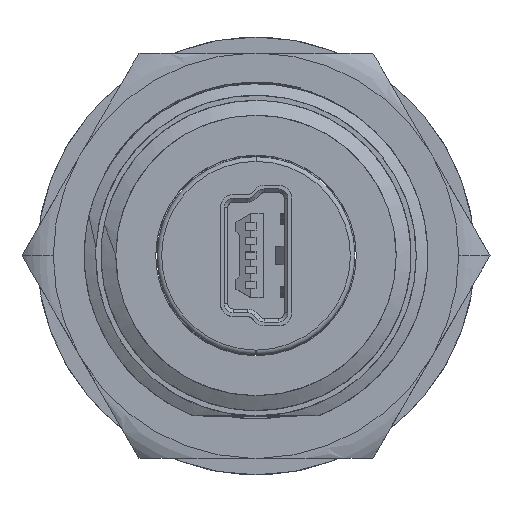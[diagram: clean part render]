
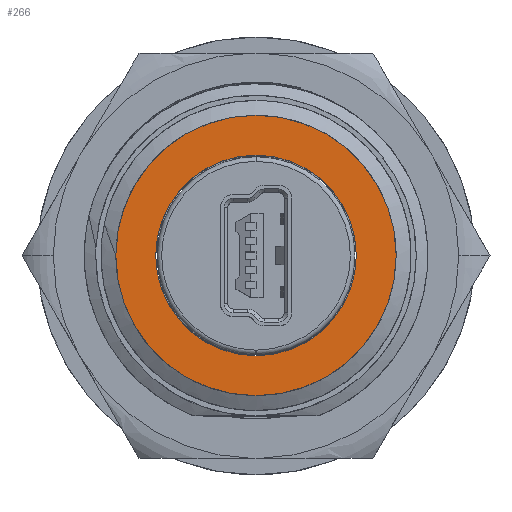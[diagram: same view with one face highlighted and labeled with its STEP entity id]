
A CAD part, top view. The second image highlights one B-rep face of the part: STEP entity #266.
In plain terms, the highlighted planar face has unit normal (0, 0, 1).
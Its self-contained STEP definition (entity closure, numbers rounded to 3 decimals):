
#266=ADVANCED_FACE('',(#848,#849),#850,.T.);
#848=FACE_OUTER_BOUND('',#4737,.T.);
#849=FACE_BOUND('',#4738,.T.);
#850=PLANE('',#4739);
#4737=EDGE_LOOP('',(#7645,#7646));
#4738=EDGE_LOOP('',(#7647,#7648));
#4739=AXIS2_PLACEMENT_3D('',#7649,#7650,#7651);
#7645=ORIENTED_EDGE('',*,*,#10097,.T.);
#7646=ORIENTED_EDGE('',*,*,#10104,.F.);
#7647=ORIENTED_EDGE('',*,*,#9704,.F.);
#7648=ORIENTED_EDGE('',*,*,#9819,.T.);
#7649=CARTESIAN_POINT('',(0.0,0.0,9.7));
#7650=DIRECTION('',(0.0,0.0,1.0));
#7651=DIRECTION('',(1.0,-0.0,0.0));
#9704=EDGE_CURVE('',#10828,#10830,#10831,.T.);
#9819=EDGE_CURVE('',#10828,#10830,#11022,.T.);
#10097=EDGE_CURVE('',#11461,#11462,#11463,.T.);
#10104=EDGE_CURVE('',#11461,#11462,#11471,.T.);
#10828=VERTEX_POINT('',#12886);
#10830=VERTEX_POINT('',#12889);
#10831=CIRCLE('',#12890,5.5);
#11022=CIRCLE('',#13283,5.5);
#11461=VERTEX_POINT('',#16309);
#11462=VERTEX_POINT('',#16310);
#11463=CIRCLE('',#16311,7.69);
#11471=CIRCLE('',#16391,7.69);
#12886=CARTESIAN_POINT('',(5.5,0.0,9.7));
#12889=CARTESIAN_POINT('',(-5.5,0.0,9.7));
#12890=AXIS2_PLACEMENT_3D('',#19401,#19402,#19403);
#13283=AXIS2_PLACEMENT_3D('',#19566,#19567,#19568);
#16309=CARTESIAN_POINT('',(7.69,0.0,9.7));
#16310=CARTESIAN_POINT('',(-7.69,0.0,9.7));
#16311=AXIS2_PLACEMENT_3D('',#19757,#19758,#19759);
#16391=AXIS2_PLACEMENT_3D('',#19762,#19763,#19764);
#19401=CARTESIAN_POINT('',(0.0,0.0,9.7));
#19402=DIRECTION('',(0.0,0.0,1.0));
#19403=DIRECTION('',(1.0,0.0,0.0));
#19566=CARTESIAN_POINT('',(0.0,0.0,9.7));
#19567=DIRECTION('',(0.0,0.0,-1.0));
#19568=DIRECTION('',(1.0,0.0,0.0));
#19757=CARTESIAN_POINT('',(0.0,0.0,9.7));
#19758=DIRECTION('',(0.0,0.0,1.0));
#19759=DIRECTION('',(1.0,0.0,0.0));
#19762=CARTESIAN_POINT('',(0.0,0.0,9.7));
#19763=DIRECTION('',(0.0,0.0,-1.0));
#19764=DIRECTION('',(1.0,0.0,0.0));
